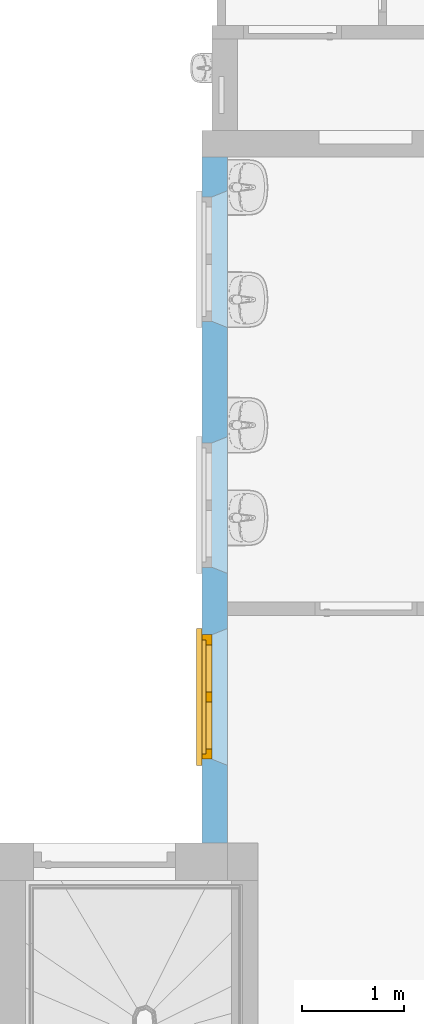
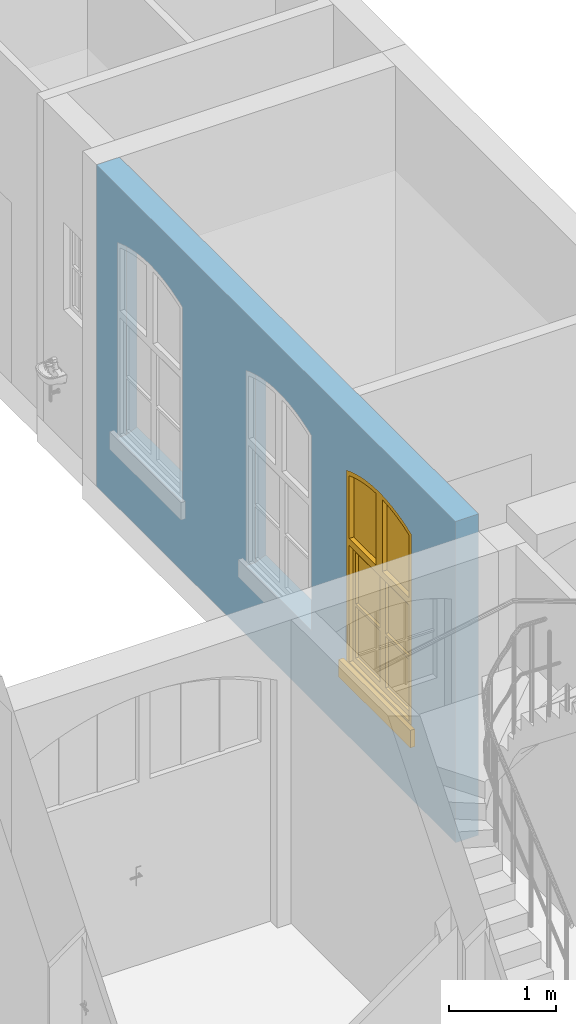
"""IFC4 building model written with IfcOpenShell, lengths in metres."""

from ifc_helpers import new_model, entity, si_unit, converted_unit, derived_unit, frame, frame_2d, origin, origin_with_axes, place, context, subcontext, project, spatial, polyline, rectangle, outline, extrude, closed_shell, open_shell, surface_model, source, transform, mapped, material, layer, layer_set, layer_usage, element, fill, save


model = new_model("IFC4")

# Units and contexts
model_context = context("Model", 3, precision=1e-05, world=origin())
body_context = subcontext(model_context, "Body", "Model", "MODEL_VIEW")
ifc_project = project(units=[si_unit("LENGTHUNIT", "METRE"), si_unit("AREAUNIT", "SQUARE_METRE"), si_unit("VOLUMEUNIT", "CUBIC_METRE"), si_unit("MASSUNIT", "GRAM", prefix="KILO"), converted_unit("PLANEANGLEUNIT", "DEGREE", entity("IfcPlaneAngleMeasure", 0.0174532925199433), si_unit("PLANEANGLEUNIT", "RADIAN"), dimensions=[0, 0, 0, 0, 0, 0, 0]), derived_unit("THERMALTRANSMITTANCEUNIT", [(si_unit("POWERUNIT", "WATT"), 1), (si_unit("THERMODYNAMICTEMPERATUREUNIT", "KELVIN"), -1), (si_unit("LENGTHUNIT", "METRE"), -2)]), derived_unit("VOLUMETRICFLOWRATEUNIT", [(si_unit("LENGTHUNIT", "METRE"), 3), (converted_unit("TIMEUNIT", "hour", entity("IfcTimeMeasure", 3600.0), si_unit("TIMEUNIT", "SECOND"), dimensions=[0, 0, 1, 0, 0, 0, 0]), -1), (si_unit("LENGTHUNIT", "METRE"), -1)])], contexts=[model_context])

# Building, storeys
building_placement = place(None, origin())
building = spatial("IfcBuilding", under=ifc_project, at=building_placement, Name="Bestandsgebäude A - Sporthalle / Wohnhaus (TB 100-499)   ANPASSEN !!!", CompositionType="ELEMENT")
storey_1_placement = place(building_placement, origin())
storey_1 = spatial("IfcBuildingStorey", under=building, at=storey_1_placement, Name="Geb. A Erdgeschoss (TB 200-249)", CompositionType="ELEMENT", Elevation=0.0)
storey_2_placement = place(storey_1_placement, origin())
storey_2 = spatial("IfcBuildingStorey", under=storey_1, at=storey_2_placement, Name="Architektur (TB 200-209)", CompositionType="PARTIAL")

# Wall, openings, window
ifc_material = material(Name="concrete")
ifc_layer = layer(ifc_material, 0.25)
ifc_layer_set = layer_set([ifc_layer])
ifc_layer_usage = layer_usage(ifc_layer_set, "AXIS2", "POSITIVE", 0.0)
wall_placement = place(storey_2_placement, frame((-3.49000000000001, 15.97, 0.0), z_axis=(0.0, 0.0, 1.0), x_axis=(-2.70682946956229e-16, -1.0, 0.0)))
wall = element("IfcWall", 1, at=wall_placement, inside=storey_2, material=ifc_layer_usage, Name="reinforced - bearing", PredefinedType="USERDEFINED", context=body_context, shape_type="SweptSolid", body=[
    extrude(rectangle(XDim=6.72, YDim=0.25, at=frame_2d((3.36, 0.125), x_axis=(1.0, 0.0))), origin_with_axes(), (0.0, 0.0, 1.0), 3.67),
])
opening_1_placement = place(wall_placement, frame((5.96, 0.25, 0.79), z_axis=(0.0, 0.0, 1.0), x_axis=(-1.0, 6.36306927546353e-17, 0.0)))
element("IfcOpeningElement", 2, at=opening_1_placement, cuts=wall, Name="Wall Niche", ObjectType="Opening", context=body_context, shape_type="SweptSolid", body=[
    extrude(outline(polyline([(0.0, 0.0), (1.34000000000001, 0.0), (1.28000000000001, 0.15), (0.0600000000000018, 0.15), (0.0, 0.0)])), origin_with_axes(), (0.0, 0.0, 1.0), 2.3),
])
opening_2_placement = place(wall_placement, frame((4.08, 0.25, 0.79), z_axis=(0.0, 0.0, 1.0), x_axis=(-1.0, 6.36306927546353e-17, 0.0)))
element("IfcOpeningElement", 3, at=opening_2_placement, cuts=wall, Name="Wall Niche", ObjectType="Opening", context=body_context, shape_type="SweptSolid", body=[
    extrude(outline(polyline([(0.0, 0.0), (1.34000000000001, 0.0), (1.28000000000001, 0.15), (0.0600000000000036, 0.15), (0.0, 0.0)])), origin_with_axes(), (0.0, 0.0, 1.0), 2.3),
])
opening_3_placement = place(wall_placement, frame((1.67, 0.25, 0.79), z_axis=(0.0, 0.0, 1.0), x_axis=(-1.0, -2.75733001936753e-16, 0.0)))
element("IfcOpeningElement", 4, at=opening_3_placement, cuts=wall, Name="Wall Niche", ObjectType="Opening", context=body_context, shape_type="SweptSolid", body=[
    extrude(outline(polyline([(0.0, 0.0), (1.34000000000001, 0.0), (1.28000000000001, 0.15), (0.06, 0.15), (0.0, 0.0)])), origin_with_axes(), (0.0, 0.0, 1.0), 2.3),
])
opening_4_placement = place(wall_placement, frame((4.68, 0.0, 0.79), z_axis=(0.0, 1.0, 0.0), x_axis=(0.0, 0.0, 1.0)))
opening_4 = element("IfcOpeningElement", 5, at=opening_4_placement, cuts=wall, Name="Window opening", PredefinedType="OPENING", context=body_context, shape_type="SweptSolid", body=[
    extrude(outline(polyline([(2.23, 1.22), (2.24529668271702, 1.18119974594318), (2.25958346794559, 1.14201638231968), (2.27285077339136, 1.102476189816), (2.28508970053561, 1.06260568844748), (2.29629204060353, 1.02243161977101), (2.30645028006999, 0.981980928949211), (2.31555760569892, 0.941280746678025), (2.32360790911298, 0.900358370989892), (2.33059579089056, 0.859241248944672), (2.33651656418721, 0.817956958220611), (2.34136625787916, 0.776533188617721), (2.34514161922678, 0.734997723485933), (2.34784011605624, 0.693378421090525), (2.34945993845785, 0.65170319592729), (2.35, 0.610000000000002), (2.34945993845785, 0.568296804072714), (2.34784011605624, 0.52662157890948), (2.34514161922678, 0.485002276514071), (2.34136625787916, 0.443466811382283), (2.33651656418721, 0.40204304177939), (2.33059579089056, 0.360758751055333), (2.32360790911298, 0.31964162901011), (2.31555760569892, 0.278719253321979), (2.30645028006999, 0.23801907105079), (2.29629204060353, 0.197568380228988), (2.2850897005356, 0.15739431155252), (2.27285077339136, 0.117523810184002), (2.25958346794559, 0.0779836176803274), (2.24529668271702, 0.0388002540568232), (2.23, 0.0), (0.0, 0.0), (0.0, 1.22), (2.23, 1.22)])), origin_with_axes(), (0.0, 0.0, 1.0), 0.25),
])
opening_5_placement = place(wall_placement, frame((2.79999999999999, 0.0, 0.79), z_axis=(0.0, 1.0, 0.0), x_axis=(0.0, 0.0, 1.0)))
element("IfcOpeningElement", 6, at=opening_5_placement, cuts=wall, Name="Window opening", PredefinedType="OPENING", context=body_context, shape_type="SweptSolid", body=[
    extrude(outline(polyline([(2.23, 1.22000000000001), (2.24529668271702, 1.18119974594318), (2.25958346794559, 1.14201638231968), (2.27285077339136, 1.102476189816), (2.2850897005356, 1.06260568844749), (2.29629204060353, 1.02243161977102), (2.30645028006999, 0.981980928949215), (2.31555760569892, 0.941280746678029), (2.32360790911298, 0.900358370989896), (2.33059579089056, 0.859241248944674), (2.33651656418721, 0.817956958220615), (2.34136625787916, 0.776533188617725), (2.34514161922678, 0.734997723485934), (2.34784011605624, 0.693378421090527), (2.34945993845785, 0.651703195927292), (2.35, 0.610000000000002), (2.34945993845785, 0.568296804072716), (2.34784011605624, 0.52662157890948), (2.34514161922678, 0.485002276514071), (2.34136625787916, 0.443466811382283), (2.33651656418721, 0.402043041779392), (2.33059579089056, 0.360758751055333), (2.32360790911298, 0.319641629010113), (2.31555760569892, 0.278719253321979), (2.30645028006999, 0.23801907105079), (2.29629204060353, 0.19756838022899), (2.2850897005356, 0.15739431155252), (2.27285077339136, 0.117523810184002), (2.25958346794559, 0.0779836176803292), (2.24529668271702, 0.0388002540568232), (2.23, 0.0), (0.0, 0.0), (0.0, 1.22000000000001), (2.23, 1.22000000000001)])), origin_with_axes(), (0.0, 0.0, 1.0), 0.25),
])
opening_6_placement = place(wall_placement, frame((0.389999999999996, 0.0, 0.79), z_axis=(-2.27373675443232e-16, 1.0, 0.0), x_axis=(0.0, 0.0, 1.0)))
element("IfcOpeningElement", 7, at=opening_6_placement, cuts=wall, Name="Window opening", PredefinedType="OPENING", context=body_context, shape_type="SweptSolid", body=[
    extrude(outline(polyline([(2.23, 1.22), (2.24529668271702, 1.18119974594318), (2.25958346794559, 1.14201638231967), (2.27285077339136, 1.102476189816), (2.28508970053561, 1.06260568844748), (2.29629204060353, 1.02243161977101), (2.30645028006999, 0.981980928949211), (2.31555760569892, 0.941280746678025), (2.32360790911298, 0.900358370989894), (2.33059579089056, 0.859241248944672), (2.33651656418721, 0.817956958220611), (2.34136625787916, 0.776533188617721), (2.34514161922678, 0.734997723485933), (2.34784011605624, 0.693378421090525), (2.34945993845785, 0.65170319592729), (2.35, 0.610000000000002), (2.34945993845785, 0.568296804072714), (2.34784011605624, 0.526621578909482), (2.34514161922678, 0.485002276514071), (2.34136625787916, 0.443466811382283), (2.33651656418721, 0.40204304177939), (2.33059579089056, 0.360758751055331), (2.32360790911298, 0.31964162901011), (2.31555760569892, 0.278719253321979), (2.30645028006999, 0.23801907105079), (2.29629204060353, 0.19756838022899), (2.2850897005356, 0.15739431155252), (2.27285077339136, 0.117523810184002), (2.25958346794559, 0.0779836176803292), (2.24529668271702, 0.0388002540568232), (2.23, 0.0), (0.0, 0.0), (0.0, 1.22), (2.23, 1.22)])), origin_with_axes(), (0.0, 0.0, 1.0), 0.25),
])
shared_shape = source(origin_with_axes(), body_context, "Body", "SurfaceModel", [
    surface_model("IfcShellBasedSurfaceModel", [(1.28, 0.15, -0.15), (1.28, 0.0999999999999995, -0.15), (1.28, 0.0999999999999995, 0.05), (1.28, 0.15, 0.05), (-0.0600000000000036, 0.0999999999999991, -0.15), (-0.0600000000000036, 0.149999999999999, -0.15), (-0.0600000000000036, 0.149999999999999, 0.0500000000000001), (-0.0600000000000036, 0.0999999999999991, 0.0500000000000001)], [closed_shell([[[0, 1, 2, 3]], [[4, 5, 6, 7]], [[1, 0, 5, 4]], [[2, 1, 4, 7]], [[3, 2, 7, 6]], [[0, 3, 6, 5]]], orient=[[False], [False], [False], [False], [False], [False]])]),
    surface_model("IfcShellBasedSurfaceModel", [(1.181199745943, 0.0, 2.245296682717), (1.22, 0.0, 2.23), (1.22, 0.0, 0.0), (0.0, 0.0, 0.0), (0.0, 0.0, 2.23), (0.0388002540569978, 0.0, 2.245296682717), (0.0779836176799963, 0.0, 2.259583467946), (0.117523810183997, 0.0, 2.272850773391), (0.157394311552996, 0.0, 2.285089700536), (0.197568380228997, 0.0, 2.296292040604), (0.238019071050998, 0.0, 2.30645028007), (0.278719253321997, 0.0, 2.315557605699), (0.319641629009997, 0.0, 2.323607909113), (0.360758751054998, 0.0, 2.330595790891), (0.402043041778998, 0.0, 2.336516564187), (0.443466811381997, 0.0, 2.341366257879), (0.485002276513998, 0.0, 2.345141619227), (0.526621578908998, 0.0, 2.347840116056), (0.568296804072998, 0.0, 2.349459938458), (0.609999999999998, 0.0, 2.35), (0.651703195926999, 0.0, 2.349459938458), (0.693378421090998, 0.0, 2.347840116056), (0.734997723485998, 0.0, 2.345141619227), (0.776533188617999, 0.0, 2.341366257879), (0.817956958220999, 0.0, 2.336516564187), (0.859241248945, 0.0, 2.330595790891), (0.900358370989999, 0.0, 2.323607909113), (0.941280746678, 0.0, 2.315557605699), (0.981980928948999, 0.0, 2.30645028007), (1.022431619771, 0.0, 2.296292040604), (1.062605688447, 0.0, 2.285089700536), (1.102476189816, 0.0, 2.272850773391), (1.14201638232, 0.0, 2.259583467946), (1.17, 0.0, 2.19596670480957), (1.16346372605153, 0.0, 2.19854357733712), (1.1254970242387, 0.0, 2.21238675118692), (1.08718457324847, 0.0, 2.22524210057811), (1.04855206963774, 0.0, 2.23710100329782), (1.00962542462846, 0.0, 2.24795550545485), (0.970430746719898, 0.0, 2.25779832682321), (0.930994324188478, 0.0, 2.26662286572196), (0.891342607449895, 0.0, 2.27442320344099), (0.851502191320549, 0.0, 2.28119410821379), (0.811499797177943, 0.0, 2.28693103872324), (0.771362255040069, 0.0, 2.29163014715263), (0.731116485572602, 0.0, 2.29528828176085), (0.690789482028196, 0.0, 2.29790298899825), (0.650408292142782, 0.0, 2.2994725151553), (0.609999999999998, 0.0, 2.29999580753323), (0.569591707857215, 0.0, 2.2994725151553), (0.5292105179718, 0.0, 2.29790298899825), (0.488883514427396, 0.0, 2.29528828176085), (0.448637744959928, 0.0, 2.29163014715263), (0.408500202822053, 0.0, 2.28693103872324), (0.368497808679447, 0.0, 2.28119410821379), (0.328657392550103, 0.0, 2.27442320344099), (0.289005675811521, 0.0, 2.26662286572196), (0.249569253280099, 0.0, 2.25779832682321), (0.210374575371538, 0.0, 2.24795550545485), (0.171447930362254, 0.0, 2.23710100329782), (0.132815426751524, 0.0, 2.22524210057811), (0.0945029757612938, 0.0, 2.21238675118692), (0.0565362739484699, 0.0, 2.19854357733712), (0.0499999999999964, 0.0, 2.19596670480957), (0.0499999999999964, 0.0, 0.07), (1.17, 0.0, 0.07), (1.22, 0.0999999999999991, 2.23), (1.181199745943, 0.0999999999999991, 2.245296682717), (1.14201638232, 0.0999999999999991, 2.259583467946), (1.102476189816, 0.0999999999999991, 2.272850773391), (1.062605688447, 0.0999999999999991, 2.285089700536), (1.022431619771, 0.0999999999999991, 2.296292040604), (0.981980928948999, 0.0999999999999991, 2.30645028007), (0.941280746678, 0.0999999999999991, 2.315557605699), (0.900358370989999, 0.0999999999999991, 2.323607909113), (0.859241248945, 0.0999999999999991, 2.330595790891), (0.817956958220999, 0.0999999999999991, 2.336516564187), (0.776533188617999, 0.0999999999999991, 2.341366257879), (0.734997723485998, 0.0999999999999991, 2.345141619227), (0.693378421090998, 0.0999999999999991, 2.347840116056), (0.651703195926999, 0.0999999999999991, 2.349459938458), (0.609999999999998, 0.0999999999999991, 2.35), (0.568296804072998, 0.0999999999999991, 2.349459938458), (0.526621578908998, 0.0999999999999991, 2.347840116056), (0.485002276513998, 0.0999999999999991, 2.345141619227), (0.443466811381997, 0.0999999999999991, 2.341366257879), (0.402043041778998, 0.0999999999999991, 2.336516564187), (0.360758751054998, 0.0999999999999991, 2.330595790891), (0.319641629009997, 0.0999999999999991, 2.323607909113), (0.278719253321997, 0.0999999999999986, 2.315557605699), (0.238019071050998, 0.0999999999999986, 2.30645028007), (0.197568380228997, 0.0999999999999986, 2.296292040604), (0.157394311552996, 0.0999999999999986, 2.285089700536), (0.117523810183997, 0.0999999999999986, 2.272850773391), (0.0779836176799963, 0.0999999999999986, 2.259583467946), (0.0388002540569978, 0.0999999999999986, 2.245296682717), (0.0, 0.0999999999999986, 2.23), (0.0, 0.0999999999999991, 0.0), (1.22, 0.0999999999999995, 0.0), (1.16346372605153, 0.0999999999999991, 2.19854357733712), (1.17, 0.0999999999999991, 2.19596670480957), (1.17, 0.0999999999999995, 0.07), (0.0499999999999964, 0.0999999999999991, 0.07), (0.0499999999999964, 0.0999999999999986, 2.19596670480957), (0.0565362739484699, 0.0999999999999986, 2.19854357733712), (0.0945029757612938, 0.0999999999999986, 2.21238675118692), (0.132815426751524, 0.0999999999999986, 2.22524210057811), (0.171447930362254, 0.0999999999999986, 2.23710100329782), (0.210374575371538, 0.0999999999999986, 2.24795550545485), (0.249569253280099, 0.0999999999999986, 2.25779832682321), (0.289005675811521, 0.0999999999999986, 2.26662286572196), (0.328657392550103, 0.0999999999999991, 2.27442320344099), (0.368497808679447, 0.0999999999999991, 2.28119410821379), (0.408500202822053, 0.0999999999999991, 2.28693103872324), (0.448637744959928, 0.0999999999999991, 2.29163014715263), (0.488883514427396, 0.0999999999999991, 2.29528828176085), (0.5292105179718, 0.0999999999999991, 2.29790298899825), (0.569591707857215, 0.0999999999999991, 2.2994725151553), (0.609999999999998, 0.0999999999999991, 2.29999580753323), (0.650408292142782, 0.0999999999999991, 2.2994725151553), (0.690789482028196, 0.0999999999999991, 2.29790298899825), (0.731116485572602, 0.0999999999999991, 2.29528828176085), (0.771362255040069, 0.0999999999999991, 2.29163014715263), (0.811499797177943, 0.0999999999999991, 2.28693103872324), (0.851502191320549, 0.0999999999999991, 2.28119410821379), (0.891342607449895, 0.0999999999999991, 2.27442320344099), (0.930994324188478, 0.0999999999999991, 2.26662286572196), (0.970430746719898, 0.0999999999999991, 2.25779832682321), (1.00962542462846, 0.0999999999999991, 2.24795550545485), (1.04855206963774, 0.0999999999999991, 2.23710100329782), (1.08718457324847, 0.0999999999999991, 2.22524210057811), (1.1254970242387, 0.0999999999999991, 2.21238675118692)], [closed_shell([[[0, 1, 2, 3, 4, 5, 6, 7, 8, 9, 10, 11, 12, 13, 14, 15, 16, 17, 18, 19, 20, 21, 22, 23, 24, 25, 26, 27, 28, 29, 30, 31, 32], [33, 34, 35, 36, 37, 38, 39, 40, 41, 42, 43, 44, 45, 46, 47, 48, 49, 50, 51, 52, 53, 54, 55, 56, 57, 58, 59, 60, 61, 62, 63, 64, 65]], [[66, 67, 68, 69, 70, 71, 72, 73, 74, 75, 76, 77, 78, 79, 80, 81, 82, 83, 84, 85, 86, 87, 88, 89, 90, 91, 92, 93, 94, 95, 96, 97, 98], [99, 100, 101, 102, 103, 104, 105, 106, 107, 108, 109, 110, 111, 112, 113, 114, 115, 116, 117, 118, 119, 120, 121, 122, 123, 124, 125, 126, 127, 128, 129, 130, 131]], [[1, 0, 67, 66]], [[2, 1, 66, 98]], [[3, 2, 98, 97]], [[4, 3, 97, 96]], [[5, 4, 96, 95]], [[6, 5, 95, 94]], [[7, 6, 94, 93]], [[8, 7, 93, 92]], [[9, 8, 92, 91]], [[10, 9, 91, 90]], [[11, 10, 90, 89]], [[12, 11, 89, 88]], [[13, 12, 88, 87]], [[14, 13, 87, 86]], [[15, 14, 86, 85]], [[16, 15, 85, 84]], [[17, 16, 84, 83]], [[18, 17, 83, 82]], [[19, 18, 82, 81]], [[20, 19, 81, 80]], [[21, 20, 80, 79]], [[22, 21, 79, 78]], [[23, 22, 78, 77]], [[24, 23, 77, 76]], [[25, 24, 76, 75]], [[26, 25, 75, 74]], [[27, 26, 74, 73]], [[28, 27, 73, 72]], [[29, 28, 72, 71]], [[30, 29, 71, 70]], [[31, 30, 70, 69]], [[32, 31, 69, 68]], [[0, 32, 68, 67]], [[33, 100, 99, 34]], [[65, 101, 100, 33]], [[64, 102, 101, 65]], [[63, 103, 102, 64]], [[62, 104, 103, 63]], [[61, 105, 104, 62]], [[60, 106, 105, 61]], [[59, 107, 106, 60]], [[58, 108, 107, 59]], [[57, 109, 108, 58]], [[56, 110, 109, 57]], [[55, 111, 110, 56]], [[54, 112, 111, 55]], [[53, 113, 112, 54]], [[52, 114, 113, 53]], [[51, 115, 114, 52]], [[50, 116, 115, 51]], [[49, 117, 116, 50]], [[48, 118, 117, 49]], [[47, 119, 118, 48]], [[46, 120, 119, 47]], [[45, 121, 120, 46]], [[44, 122, 121, 45]], [[43, 123, 122, 44]], [[42, 124, 123, 43]], [[41, 125, 124, 42]], [[40, 126, 125, 41]], [[39, 127, 126, 40]], [[38, 128, 127, 39]], [[37, 129, 128, 38]], [[36, 130, 129, 37]], [[35, 131, 130, 36]], [[34, 99, 131, 35]]], orient=[[False, False], [False, False], [False], [False], [False], [False], [False], [False], [False], [False], [False], [False], [False], [False], [False], [False], [False], [False], [False], [False], [False], [False], [False], [False], [False], [False], [False], [False], [False], [False], [False], [False], [False], [False], [False], [False], [False], [False], [False], [False], [False], [False], [False], [False], [False], [False], [False], [False], [False], [False], [False], [False], [False], [False], [False], [False], [False], [False], [False], [False], [False], [False], [False], [False], [False], [False], [False], [False]])]),
    surface_model("IfcShellBasedSurfaceModel", [(1.17, 0.0, 1.48), (1.17, 0.0, 1.4), (0.0499999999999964, 0.0, 1.4), (0.0499999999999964, 0.0, 1.48), (1.17, 0.0999999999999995, 1.4), (1.17, 0.0999999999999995, 1.48), (0.0499999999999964, 0.0999999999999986, 1.48), (0.0499999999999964, 0.0999999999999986, 1.4)], [closed_shell([[[0, 1, 2, 3]], [[4, 5, 6, 7]], [[1, 0, 5, 4]], [[2, 1, 4, 7]], [[3, 2, 7, 6]], [[0, 3, 6, 5]]], orient=[[False], [False], [False], [False], [False], [False]])]),
    surface_model("IfcShellBasedSurfaceModel", [(0.669999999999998, 0.0, 2.29871102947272), (0.669999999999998, 0.0, 1.48), (0.549999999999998, 0.0, 1.48), (0.549999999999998, 0.0, 2.29871102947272), (0.569591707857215, 0.0, 2.2994725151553), (0.609999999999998, 0.0, 2.29999580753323), (0.650408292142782, 0.0, 2.2994725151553), (0.669999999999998, 0.0999999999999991, 1.48), (0.669999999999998, 0.0999999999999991, 2.29871102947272), (0.650408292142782, 0.0999999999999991, 2.2994725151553), (0.609999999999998, 0.0999999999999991, 2.29999580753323), (0.569591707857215, 0.0999999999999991, 2.2994725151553), (0.549999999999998, 0.0999999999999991, 2.29871102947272), (0.549999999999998, 0.0999999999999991, 1.48)], [closed_shell([[[0, 1, 2, 3, 4, 5, 6]], [[7, 8, 9, 10, 11, 12, 13]], [[1, 0, 8, 7]], [[2, 1, 7, 13]], [[3, 2, 13, 12]], [[4, 3, 12, 11]], [[5, 4, 11, 10]], [[6, 5, 10, 9]], [[0, 6, 9, 8]]], orient=[[False], [False], [False], [False], [False], [False], [False], [False], [False]])]),
    surface_model("IfcShellBasedSurfaceModel", [(0.610499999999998, 0.0, 0.07), (0.610499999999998, 0.0, 1.4), (1.17, 0.0, 1.4), (1.17, 0.0, 0.07), (0.660499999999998, 0.0, 1.34), (0.660499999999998, 0.0, 0.13), (1.12, 0.0, 0.13), (1.12, 0.0, 1.34), (0.610499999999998, 0.0599999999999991, 1.4), (0.610499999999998, 0.0599999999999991, 0.07), (1.17, 0.0599999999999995, 0.07), (1.17, 0.0599999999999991, 1.4), (0.660499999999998, 0.0599999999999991, 0.13), (0.660499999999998, 0.0599999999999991, 1.34), (1.12, 0.0599999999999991, 1.34), (1.12, 0.0599999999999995, 0.13)], [closed_shell([[[0, 1, 2, 3], [4, 5, 6, 7]], [[8, 9, 10, 11], [12, 13, 14, 15]], [[1, 0, 9, 8]], [[2, 1, 8, 11]], [[3, 2, 11, 10]], [[0, 3, 10, 9]], [[4, 13, 12, 5]], [[7, 14, 13, 4]], [[6, 15, 14, 7]], [[5, 12, 15, 6]]], orient=[[False, False], [False, False], [False], [False], [False], [False], [False], [False], [False], [False]])]),
    surface_model("IfcShellBasedSurfaceModel", [(0.609499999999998, 0.0, 1.4), (0.609499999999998, 0.0, 0.07), (0.0499999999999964, 0.0, 0.07), (0.0499999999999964, 0.0, 1.4), (0.559499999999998, 0.0, 0.13), (0.559499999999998, 0.0, 1.34), (0.0999999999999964, 0.0, 1.34), (0.0999999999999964, 0.0, 0.13), (0.609499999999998, 0.0599999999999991, 0.07), (0.609499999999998, 0.0599999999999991, 1.4), (0.0499999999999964, 0.0599999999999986, 1.4), (0.0499999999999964, 0.0599999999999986, 0.07), (0.559499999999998, 0.0599999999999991, 1.34), (0.559499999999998, 0.0599999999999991, 0.13), (0.0999999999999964, 0.0599999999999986, 0.13), (0.0999999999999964, 0.0599999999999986, 1.34)], [closed_shell([[[0, 1, 2, 3], [4, 5, 6, 7]], [[8, 9, 10, 11], [12, 13, 14, 15]], [[1, 0, 9, 8]], [[2, 1, 8, 11]], [[3, 2, 11, 10]], [[0, 3, 10, 9]], [[4, 13, 12, 5]], [[7, 14, 13, 4]], [[6, 15, 14, 7]], [[5, 12, 15, 6]]], orient=[[False, False], [False, False], [False], [False], [False], [False], [False], [False], [False], [False]])]),
    surface_model("IfcShellBasedSurfaceModel", [(0.559499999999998, 0.0, 0.75), (0.559499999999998, 0.0, 0.72), (0.0999999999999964, 0.0, 0.72), (0.0999999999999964, 0.0, 0.75), (0.559499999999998, 0.0599999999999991, 0.72), (0.559499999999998, 0.0599999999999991, 0.75), (0.0999999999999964, 0.0599999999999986, 0.75), (0.0999999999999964, 0.0599999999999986, 0.72)], [closed_shell([[[0, 1, 2, 3]], [[4, 5, 6, 7]], [[1, 0, 5, 4]], [[2, 1, 4, 7]], [[3, 2, 7, 6]], [[0, 3, 6, 5]]], orient=[[False], [False], [False], [False], [False], [False]])]),
    surface_model("IfcShellBasedSurfaceModel", [(1.12, 0.0, 0.75), (1.12, 0.0, 0.72), (0.660499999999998, 0.0, 0.72), (0.660499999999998, 0.0, 0.75), (1.12, 0.0599999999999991, 0.72), (1.12, 0.0599999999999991, 0.75), (0.660499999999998, 0.0599999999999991, 0.75), (0.660499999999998, 0.0599999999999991, 0.72)], [closed_shell([[[0, 1, 2, 3]], [[4, 5, 6, 7]], [[1, 0, 5, 4]], [[2, 1, 4, 7]], [[3, 2, 7, 6]], [[0, 3, 6, 5]]], orient=[[False], [False], [False], [False], [False], [False]])]),
    surface_model("IfcShellBasedSurfaceModel", [(1.16346372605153, 0.0499999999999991, 2.19854357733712), (1.17, 0.0499999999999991, 2.19596670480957), (1.17, 0.0499999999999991, 1.48), (0.669999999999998, 0.0499999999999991, 1.48), (0.669999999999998, 0.0499999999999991, 2.29871102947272), (0.690789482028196, 0.0499999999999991, 2.29790298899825), (0.731116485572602, 0.0499999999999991, 2.29528828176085), (0.771362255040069, 0.0499999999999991, 2.29163014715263), (0.811499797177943, 0.0499999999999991, 2.28693103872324), (0.851502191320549, 0.0499999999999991, 2.28119410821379), (0.891342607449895, 0.0499999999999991, 2.27442320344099), (0.930994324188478, 0.0499999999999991, 2.26662286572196), (0.970430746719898, 0.0499999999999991, 2.25779832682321), (1.00962542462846, 0.0499999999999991, 2.24795550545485), (1.04855206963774, 0.0499999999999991, 2.23710100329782), (1.08718457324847, 0.0499999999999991, 2.22524210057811), (1.1254970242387, 0.0499999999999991, 2.21238675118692)], [open_shell([[[0, 1, 2, 3, 4, 5, 6, 7, 8, 9, 10, 11, 12, 13, 14, 15, 16]]], orient=[[False]])]),
    surface_model("IfcShellBasedSurfaceModel", [(0.5292105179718, 0.0499999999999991, 2.29790298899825), (0.549999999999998, 0.0499999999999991, 2.29871102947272), (0.549999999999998, 0.0499999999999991, 1.48), (0.0499999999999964, 0.0499999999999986, 1.48), (0.0499999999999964, 0.0499999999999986, 2.19596670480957), (0.0565362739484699, 0.0499999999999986, 2.19854357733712), (0.0945029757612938, 0.0499999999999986, 2.21238675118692), (0.132815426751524, 0.0499999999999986, 2.22524210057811), (0.171447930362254, 0.0499999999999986, 2.23710100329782), (0.210374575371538, 0.0499999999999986, 2.24795550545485), (0.249569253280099, 0.0499999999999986, 2.25779832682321), (0.289005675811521, 0.0499999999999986, 2.26662286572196), (0.328657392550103, 0.0499999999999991, 2.27442320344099), (0.368497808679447, 0.0499999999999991, 2.28119410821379), (0.408500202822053, 0.0499999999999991, 2.28693103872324), (0.448637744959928, 0.0499999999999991, 2.29163014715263), (0.488883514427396, 0.0499999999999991, 2.29528828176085)], [open_shell([[[0, 1, 2, 3, 4, 5, 6, 7, 8, 9, 10, 11, 12, 13, 14, 15, 16]]], orient=[[False]])]),
    surface_model("IfcShellBasedSurfaceModel", [(0.559499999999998, 0.0299999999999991, 0.72), (0.559499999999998, 0.0299999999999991, 0.13), (0.0999999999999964, 0.0299999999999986, 0.13), (0.0999999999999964, 0.0299999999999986, 0.72)], [open_shell([[[0, 1, 2, 3]]], orient=[[False]])]),
    surface_model("IfcShellBasedSurfaceModel", [(0.0999999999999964, 0.0299999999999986, 0.75), (0.0999999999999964, 0.0299999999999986, 1.34), (0.559499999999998, 0.0299999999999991, 1.34), (0.559499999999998, 0.0299999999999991, 0.75)], [open_shell([[[0, 1, 2, 3]]], orient=[[False]])]),
    surface_model("IfcShellBasedSurfaceModel", [(1.12, 0.0299999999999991, 0.72), (1.12, 0.0299999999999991, 0.13), (0.660499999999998, 0.0299999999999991, 0.13), (0.660499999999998, 0.0299999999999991, 0.72)], [open_shell([[[0, 1, 2, 3]]], orient=[[False]])]),
    surface_model("IfcShellBasedSurfaceModel", [(0.660499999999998, 0.0299999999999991, 0.75), (0.660499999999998, 0.0299999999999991, 1.34), (1.12, 0.0299999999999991, 1.34), (1.12, 0.0299999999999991, 0.75)], [open_shell([[[0, 1, 2, 3]]], orient=[[False]])]),
])
window_placement = place(opening_4_placement, frame((0.0, 1.22, 0.1), z_axis=(1.0, 0.0, 0.0), x_axis=(0.0, -1.0, 1.02060783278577e-16)))
window = element("IfcWindow", 8, at=window_placement, inside=storey_2, Name="Window", OverallHeight=2.35, OverallWidth=1.22, PartitioningType="USERDEFINED", PredefinedType="WINDOW", context=body_context, shape_type="MappedRepresentation", body=[
    mapped(shared_shape, transform((0.0, 0.0, 0.0), x_axis=(1.0, 0.0, 0.0), y_axis=(0.0, 1.0, 0.0), z_axis=(0.0, 0.0, 1.0), scale=1.0)),
])
fill(opening_4, window)

save(model, "model.ifc")
